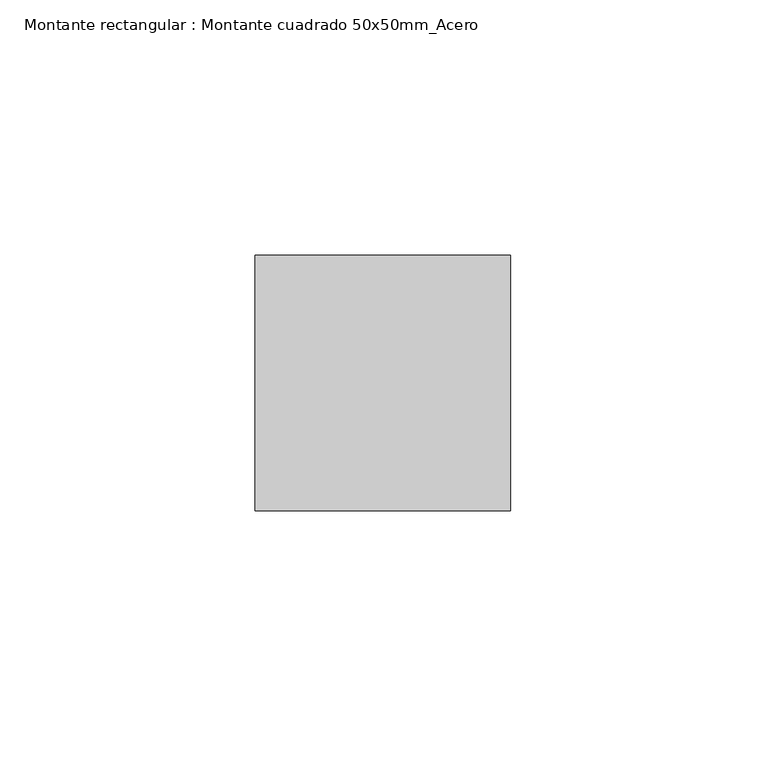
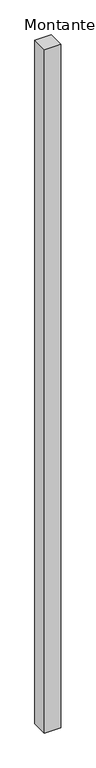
"""IFC4 building model written with IfcOpenShell, lengths in millimetres: member geometry, Montante rectangular : Montante cuadrado 50x50mm_Acero."""

from ifc_helpers import new_model, si_unit, frame, origin, place, context, project, spatial, polyline, outline, extrude, source, transform, mapped, element, save


def montante_rectangular_montante_cuadrado_50x50mm_acero_b2a91dca(model_context):
    return source(origin(), model_context, "Body", "SweptSolid", [
        extrude(outline(polyline([(-50.0, 0.0), (0.0, 0.0), (0.0, -50.0), (-50.0, -50.0), (-50.0, 0.0)])), frame((0.0, 0.0, -2200.0), z_axis=(0.0, 0.0, 1.0), x_axis=(1.0, 0.0, 0.0)), (0.0, 0.0, 1.0), 2200.0),
    ])


if __name__ == "__main__":
    model = new_model("IFC4")
    model_context = context("Model", 3, world=origin())
    ifc_project = project(units=[si_unit("LENGTHUNIT", "METRE", prefix="MILLI")], contexts=[model_context])
    site = spatial("IfcSite", under=ifc_project)
    building = spatial("IfcBuilding", under=site)
    placement = place(None, origin())
    montante_rectangular_montante_cuadrado_50x50mm_acero_shape = montante_rectangular_montante_cuadrado_50x50mm_acero_b2a91dca(model_context)
    element("IfcMember", 1, ObjectType="Montante rectangular : Montante cuadrado 50x50mm_Acero", at=placement, inside=building, context=model_context, shape_type="MappedRepresentation", body=[
        mapped(montante_rectangular_montante_cuadrado_50x50mm_acero_shape, transform((0.0, 0.0, 0.0), x_axis=(1.0, 0.0, 0.0), y_axis=(0.0, 1.0, 0.0), z_axis=(0.0, 0.0, 1.0))),
    ])
    save(model, "model.ifc")
